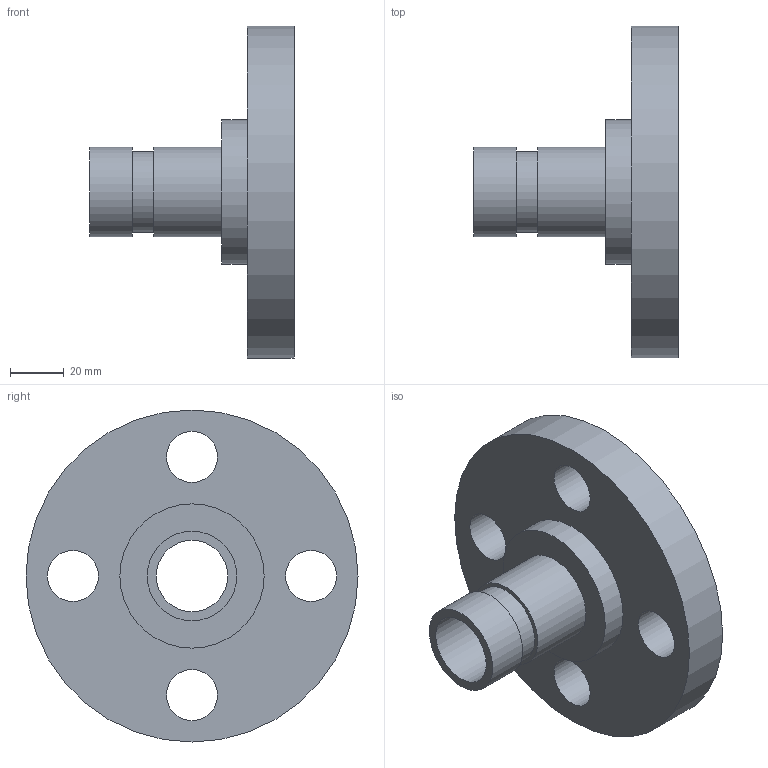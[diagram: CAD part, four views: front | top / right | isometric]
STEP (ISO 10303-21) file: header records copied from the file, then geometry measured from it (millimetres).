
FILE_DESCRIPTION(/* description */ ('VIC FLANGE ADAPTER No 46F','CAx-IF Rec.Pracs.---Representation and Presentation of Product Manufacturing Information (PMI)---4.0---2014-10-13'),/* implementation_level */ '2;1');
FILE_NAME(/* name */ 'C:\Users\kkamble\AppData\Roaming\Autodesk\ApplicationPlugins\Back Up\Victaulic_IPS_Flanged Adapter Nipple_CL 300 FF_No 46F (OGSxFLG)\Victaulic_IPS_Flanged Adapter Nipple_CL 300 FF_No 46F (OGSxFLG)_1 (25).stp',/* time_stamp */ '2020-07-26T22:24:31+06:00',/* author */ ('CONSTRUCTION PIPING SERVICES'),/* organization */ ('Victaulic'),/* preprocessor_version */ 'ST-DEVELOPER v17.2',/* originating_system */ 'Autodesk Inventor 2019',/* authorisation */ '');
FILE_SCHEMA (('AP242_MANAGED_MODEL_BASED_3D_ENGINEERING_MIM_LF { 1 0 10303 442 1 1 4 }'));
Length unit declared in the file: inch
Products named in the file (1): 046F-01.0
Bounding box: 76.2 x 123.95 x 123.95 mm (x, y, z)
Volume: 212333.4 mm3; surface area: 45135.8 mm2
Topology: 1 solids, 1 shells, 16 faces, 42 edges, 32 vertices
Faces by surface type: cylinder 10, plane 6
Full cylindrical faces by diameter (mm): 19.05 x4, 26.645 x1, 30.226 x1, 33.401 x2, 53.848 x1, 123.952 x1
Entity records: 622 total; most frequent: DIRECTION 108, CARTESIAN_POINT 91, ORIENTED_EDGE 84, AXIS2_PLACEMENT_3D 49, EDGE_CURVE 42, CIRCLE 32, VERTEX_POINT 32, EDGE_LOOP 30
